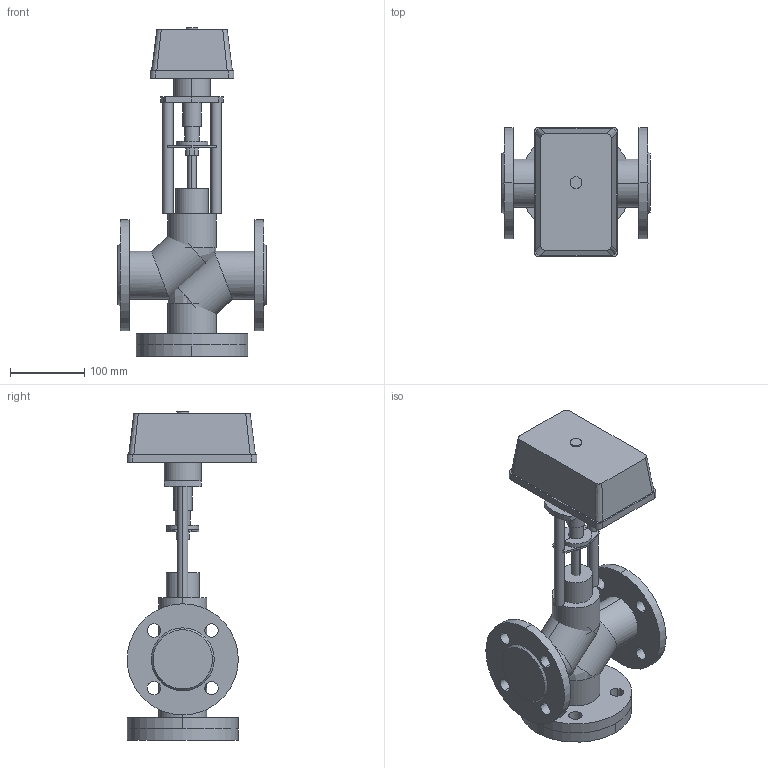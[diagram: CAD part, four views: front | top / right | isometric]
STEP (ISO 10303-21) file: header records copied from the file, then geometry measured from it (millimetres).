
FILE_DESCRIPTION(/* description */ (''),/* implementation_level */ '2;1');
FILE_NAME(/* name */ 'ТРК DN40 PN 1.6 МПа МИЭП-1 1600',/* time_stamp */ '2026-07-14T23:28:57+03:00',/* author */ (''),/* organization */ (''),/* preprocessor_version */ 'ST-DEVELOPER v20',/* originating_system */ '',/* authorisation */ '');
FILE_SCHEMA (('AP242_MANAGED_MODEL_BASED_3D_ENGINEERING_MIM_LF { 1 0 10303 442 1 1 4 }'));
Length unit declared in the file: millimetre
Products named in the file (14): TopLevelAssembly; Выдавливание; Модификатор; Модификатор_1; Выдавливание_
1; Выдавливание_
2; Вращение; Выдавливание_
3; Выдавливание_
4; 1600; Переход; Объемная геометрия 
присоединена; Полый Выдавливание; Объемная геометрия 
присоединена_1
Assembly tree (13 placements, depth 2):
  TopLevelAssembly
    Выдавливание
    Модификатор
    Модификатор_1
    Выдавливание_
1
    Выдавливание_
2
    Вращение
    Выдавливание_
3
    Выдавливание_
4
    1600
    Переход
    Объемная геометрия 
присоединена
    Полый Выдавливание
    Объемная геометрия 
присоединена_1
Bounding box: 200 x 175 x 443 mm (x, y, z)
Volume: 3506641.2 mm3; surface area: 461838.4 mm2
Topology: 23 solids, 23 shells, 171 faces, 357 edges, 226 vertices
Faces by surface type: cylinder 80, plane 79, bspline 8, cone 4
Entity records: 5224 total; most frequent: CARTESIAN_POINT 961, DIRECTION 909, ORIENTED_EDGE 698, AXIS2_PLACEMENT_3D 370, EDGE_CURVE 349, VERTEX_POINT 226, EDGE_LOOP 201, CIRCLE 172
